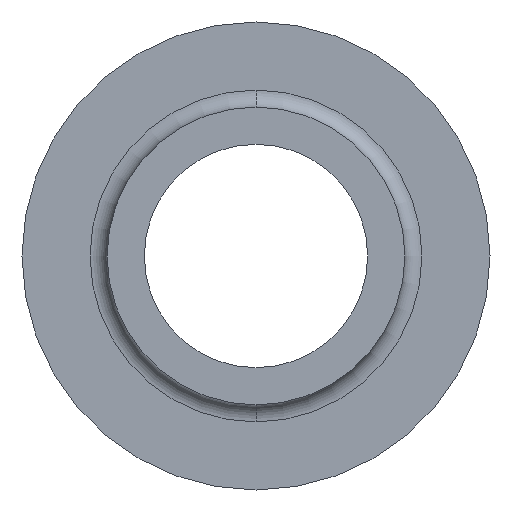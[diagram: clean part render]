
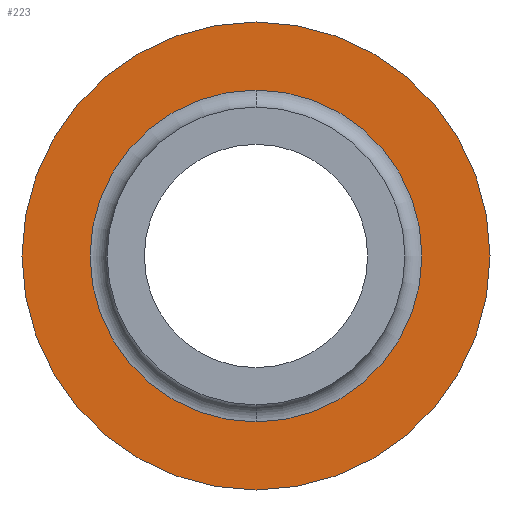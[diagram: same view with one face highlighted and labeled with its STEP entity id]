
A CAD part, front view. The second image highlights one B-rep face of the part: STEP entity #223.
In plain terms, the highlighted planar face has unit normal (0, -1, 0).
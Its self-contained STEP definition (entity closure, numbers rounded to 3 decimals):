
#130 = ORIENTED_EDGE ( 'NONE', *, *, #170, .F. ) ;
#170 = EDGE_CURVE ( 'NONE', #201, #200, #388, .T. ) ;
#171 = ORIENTED_EDGE ( 'NONE', *, *, #172, .T. ) ;
#172 = EDGE_CURVE ( 'NONE', #210, #209, #347, .T. ) ;
#173 = ORIENTED_EDGE ( 'NONE', *, *, #208, .T. ) ;
#174 = EDGE_LOOP ( 'NONE', ( #175, #130 ) ) ;
#175 = ORIENTED_EDGE ( 'NONE', *, *, #199, .F. ) ;
#184 = EDGE_LOOP ( 'NONE', ( #171, #173 ) ) ;
#199 = EDGE_CURVE ( 'NONE', #200, #201, #437, .T. ) ;
#200 = VERTEX_POINT ( 'NONE', #432 ) ;
#201 = VERTEX_POINT ( 'NONE', #431 ) ;
#208 = EDGE_CURVE ( 'NONE', #209, #210, #498, .T. ) ;
#209 = VERTEX_POINT ( 'NONE', #487 ) ;
#210 = VERTEX_POINT ( 'NONE', #486 ) ;
#223 = ADVANCED_FACE ( 'NONE', ( #514, #513 ), #509, .F. ) ;
#322 = DIRECTION ( 'NONE',  ( 0., 1., 0. ) ) ;
#323 = CARTESIAN_POINT ( 'NONE',  ( 0., -7., 0. ) ) ;
#324 = AXIS2_PLACEMENT_3D ( 'NONE', #323, #322, #348 ) ;
#343 = DIRECTION ( 'NONE',  ( 0., 0., 1. ) ) ;
#344 = DIRECTION ( 'NONE',  ( 0., 1., 0. ) ) ;
#345 = CARTESIAN_POINT ( 'NONE',  ( 0., -7., 0. ) ) ;
#346 = AXIS2_PLACEMENT_3D ( 'NONE', #345, #344, #343 ) ;
#347 = CIRCLE ( 'NONE', #346, 7.8 ) ;
#348 = DIRECTION ( 'NONE',  ( 0., 0., 1. ) ) ;
#388 = CIRCLE ( 'NONE', #324, 11. ) ;
#431 = CARTESIAN_POINT ( 'NONE',  ( 0., -7., -11. ) ) ;
#432 = CARTESIAN_POINT ( 'NONE',  ( 0., -7., 11. ) ) ;
#433 = DIRECTION ( 'NONE',  ( 0., 0., 1. ) ) ;
#434 = DIRECTION ( 'NONE',  ( 0., 1., 0. ) ) ;
#435 = CARTESIAN_POINT ( 'NONE',  ( 0., -7., 0. ) ) ;
#436 = AXIS2_PLACEMENT_3D ( 'NONE', #435, #434, #433 ) ;
#437 = CIRCLE ( 'NONE', #436, 11. ) ;
#484 = DIRECTION ( 'NONE',  ( 0., 0., 1. ) ) ;
#485 = DIRECTION ( 'NONE',  ( 0., 1., 0. ) ) ;
#486 = CARTESIAN_POINT ( 'NONE',  ( 0., -7., 7.8 ) ) ;
#487 = CARTESIAN_POINT ( 'NONE',  ( 0., -7., -7.8 ) ) ;
#488 = DIRECTION ( 'NONE',  ( 0., 0., 1. ) ) ;
#489 = DIRECTION ( 'NONE',  ( 0., 1., 0. ) ) ;
#496 = CARTESIAN_POINT ( 'NONE',  ( 0., -7., 0. ) ) ;
#497 = AXIS2_PLACEMENT_3D ( 'NONE', #496, #489, #488 ) ;
#498 = CIRCLE ( 'NONE', #497, 7.8 ) ;
#509 = PLANE ( 'NONE',  #512 ) ;
#511 = CARTESIAN_POINT ( 'NONE',  ( 0., -7., 0. ) ) ;
#512 = AXIS2_PLACEMENT_3D ( 'NONE', #511, #485, #484 ) ;
#513 = FACE_OUTER_BOUND ( 'NONE', #174, .T. ) ;
#514 = FACE_BOUND ( 'NONE', #184, .T. ) ;
